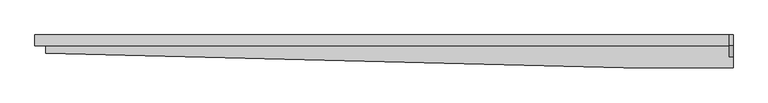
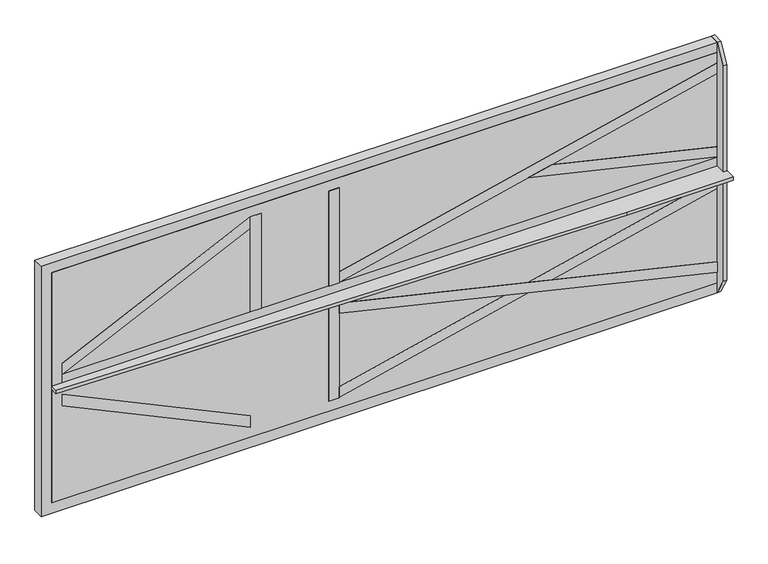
"""IFC4 building model written with IfcOpenShell, lengths in millimetres: proxy geometry, MK-TA24-ZAFE-T01-WD."""

from ifc_helpers import new_model, si_unit, frame, origin, origin_with_axes, place, context, project, spatial, polyline, outline, extrude, source, transform, mapped, element, save


def generic_models_515dab43(model_context):
    return source(origin(), model_context, "Body", "SweptSolid", [
        extrude(outline(polyline([(-31.1757965, -1075.0), (-61.9902006, -1075.0), (-311.8242035, -10.0), (-281.0097994, -10.0), (-31.1757965, -1075.0)])), frame((0.0, 687.0, 0.0), z_axis=(0.0, 1.0, 0.0), x_axis=(0.0, 0.0, 1.0)), (0.0, 0.0, 1.0), 30.0),
        extrude(outline(polyline([(-1075.0, 717.0), (-1075.0, 687.0), (-1105.0, 687.0), (-1105.0, 717.0), (-1075.0, 717.0)])), frame((0.0, 0.0, 30.0), z_axis=(0.0, 0.0, 1.0), x_axis=(1.0, 0.0, 0.0)), (0.0, 0.0, 1.0), 283.0),
        extrude(outline(polyline([(657.0, -321.0384758), (657.0, 321.0384758), (687.0, 373.0), (717.0, 373.0), (717.0, -373.0), (687.0, -373.0), (657.0, -321.0384758)])), frame((-10.0, 0.0, 0.0), z_axis=(1.0, 0.0, 0.0), x_axis=(0.0, 1.0, 0.0)), (0.0, 0.0, 1.0), 10.0),
        extrude(outline(polyline([(-281.0097994, -1075.0), (-311.8242035, -1075.0), (-186.907202, -542.5), (-171.5, -608.1782903), (-281.0097994, -1075.0)])), frame((0.0, 687.0, 0.0), z_axis=(0.0, 1.0, 0.0), x_axis=(0.0, 0.0, 1.0)), (0.0, 0.0, 1.0), 30.0),
        extrude(outline(polyline([(171.5, -476.8217097), (156.092798, -542.5), (31.1757965, -10.0), (61.9902006, -10.0), (171.5, -476.8217097)])), frame((0.0, 687.0, 0.0), z_axis=(0.0, 1.0, 0.0), x_axis=(0.0, 0.0, 1.0)), (0.0, 0.0, 1.0), 30.0),
        extrude(outline(polyline([(-30.0, -1855.0), (-63.1659971, -1855.0), (-313.0, -1325.0), (-279.8340029, -1325.0), (-30.0, -1855.0)])), frame((0.0, 687.0, 0.0), z_axis=(0.0, 1.0, 0.0), x_axis=(0.0, 0.0, 1.0)), (0.0, 0.0, 1.0), 30.0),
        extrude(outline(polyline([(-1885.0, 667.019717), (-1885.0, 687.0), (0.0, 687.0), (0.0, 627.0), (-300.0, 627.0), (-1885.0, 667.019717)])), frame((0.0, 0.0, -5.0), z_axis=(0.0, 0.0, 1.0), x_axis=(1.0, 0.0, 0.0)), (0.0, 0.0, 1.0), 10.0),
        extrude(outline(polyline([(-61.9902006, -10.0), (-31.1757965, -10.0), (-156.092798, -542.5), (-171.5, -476.8217097), (-61.9902006, -10.0)])), frame((0.0, 687.0, 0.0), z_axis=(0.0, 1.0, 0.0), x_axis=(0.0, 0.0, 1.0)), (0.0, 0.0, 1.0), 30.0),
        extrude(outline(polyline([(-1075.0, 717.0), (-1075.0, 687.0), (-1105.0, 687.0), (-1105.0, 717.0), (-1075.0, 717.0)])), frame((0.0, 0.0, -313.0), z_axis=(0.0, 0.0, 1.0), x_axis=(1.0, 0.0, 0.0)), (0.0, 0.0, 1.0), 283.0),
        extrude(outline(polyline([(-1295.0, 717.0), (-1295.0, 687.0), (-1325.0, 687.0), (-1325.0, 717.0), (-1295.0, 717.0)])), frame((0.0, 0.0, 30.0), z_axis=(0.0, 0.0, 1.0), x_axis=(1.0, 0.0, 0.0)), (0.0, 0.0, 1.0), 283.0),
        extrude(outline(polyline([(-10.0, 687.0), (-1855.0, 687.0), (-1855.0, 717.0), (-10.0, 717.0), (-10.0, 687.0)])), origin_with_axes(), (0.0, 0.0, 1.0), 30.0),
        extrude(outline(polyline([(63.1659971, -1855.0), (30.0, -1855.0), (279.8340029, -1325.0), (313.0, -1325.0), (63.1659971, -1855.0)])), frame((0.0, 687.0, 0.0), z_axis=(0.0, 1.0, 0.0), x_axis=(0.0, 0.0, 1.0)), (0.0, 0.0, 1.0), 30.0),
        extrude(outline(polyline([(61.9902006, -1075.0), (31.1757965, -1075.0), (281.0097994, -10.0), (311.8242035, -10.0), (61.9902006, -1075.0)])), frame((0.0, 687.0, 0.0), z_axis=(0.0, 1.0, 0.0), x_axis=(0.0, 0.0, 1.0)), (0.0, 0.0, 1.0), 30.0),
        extrude(outline(polyline([(-1885.0, 687.0), (-1885.0, 717.0), (-10.0, 717.0), (-10.0, 687.0), (-1885.0, 687.0)])), frame((0.0, 0.0, -343.0), z_axis=(0.0, 0.0, 1.0), x_axis=(1.0, 0.0, 0.0)), (0.0, 0.0, 1.0), 686.0),
        extrude(outline(polyline([(171.5, -608.1782903), (186.907202, -542.5), (311.8242035, -1075.0), (281.0097994, -1075.0), (171.5, -608.1782903)])), frame((0.0, 687.0, 0.0), z_axis=(0.0, 1.0, 0.0), x_axis=(0.0, 0.0, 1.0)), (0.0, 0.0, 1.0), 30.0),
        extrude(outline(polyline([(-1295.0, 717.0), (-1295.0, 687.0), (-1325.0, 687.0), (-1325.0, 717.0), (-1295.0, 717.0)])), frame((0.0, 0.0, -313.0), z_axis=(0.0, 0.0, 1.0), x_axis=(1.0, 0.0, 0.0)), (0.0, 0.0, 1.0), 283.0),
        extrude(outline(polyline([(-1915.0, 687.0), (-1915.0, 717.0), (-10.0, 717.0), (-10.0, 687.0), (-1915.0, 687.0)])), frame((0.0, 0.0, -373.0), z_axis=(0.0, 0.0, 1.0), x_axis=(1.0, 0.0, 0.0)), (0.0, 0.0, 1.0), 746.0),
        extrude(outline(polyline([(-10.0, 717.0), (-10.0, 687.0), (-1855.0, 687.0), (-1855.0, 717.0), (-10.0, 717.0)])), frame((0.0, 0.0, -30.0), z_axis=(0.0, 0.0, 1.0), x_axis=(1.0, 0.0, 0.0)), (0.0, 0.0, 1.0), 30.0),
    ])


if __name__ == "__main__":
    model = new_model("IFC4")
    model_context = context("Model", 3, world=origin())
    ifc_project = project(units=[si_unit("LENGTHUNIT", "METRE", prefix="MILLI")], contexts=[model_context])
    site = spatial("IfcSite", under=ifc_project)
    building = spatial("IfcBuilding", under=site)
    placement = place(None, origin())
    generic_models_shape = generic_models_515dab43(model_context)
    element("IfcBuildingElementProxy", 1, Name="MK-TA24-ZAFE-T01-WD", ObjectType="MK-TA24-ZAFE-T01-WD", at=placement, inside=building, context=model_context, shape_type="MappedRepresentation", body=[
        mapped(generic_models_shape, transform((0.0, 0.0, 0.0), x_axis=(1.0, 0.0, 0.0), y_axis=(0.0, 1.0, 0.0), z_axis=(0.0, 0.0, 1.0))),
    ])
    save(model, "model.ifc")
